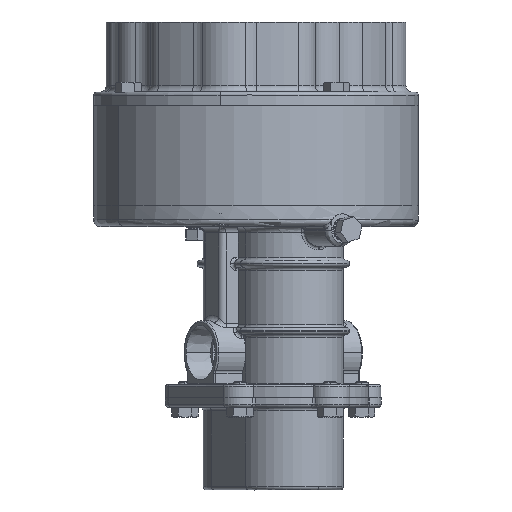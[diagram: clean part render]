
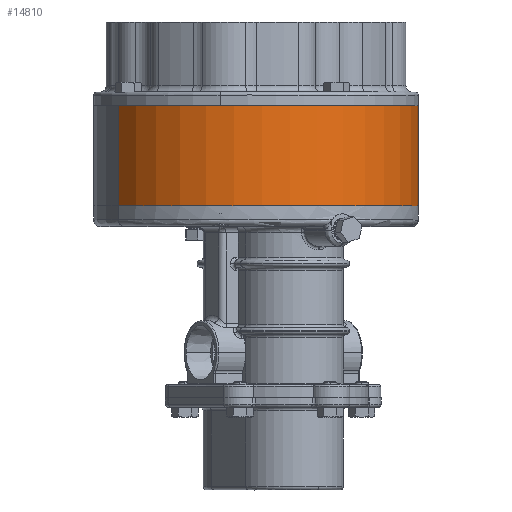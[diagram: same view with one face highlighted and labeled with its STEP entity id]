
A CAD part, top view. The second image highlights one B-rep face of the part: STEP entity #14810.
In plain terms, the highlighted cylindrical face has radius 79.756 mm (diameter 159.512 mm), a partial arc.
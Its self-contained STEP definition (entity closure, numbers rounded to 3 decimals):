
#998 = EDGE_CURVE ( 'NONE', #54192, #35026, #36113, .T. ) ;
#1045 = CARTESIAN_POINT ( 'NONE',  ( -125.4, 70.687, -32.629 ) ) ;
#2567 = CARTESIAN_POINT ( 'NONE',  ( 9.527, 70.687, -117.71 ) ) ;
#3910 = ORIENTED_EDGE ( 'NONE', *, *, #27664, .F. ) ;
#5446 = DIRECTION ( 'NONE',  ( 0., -1., 0. ) ) ;
#5675 = CIRCLE ( 'NONE', #14821, 79.756 ) ;
#10292 = CARTESIAN_POINT ( 'NONE',  ( -57.936, 70.687, -75.17 ) ) ;
#14810 = ADVANCED_FACE ( 'NONE', ( #16182 ), #19344, .T. ) ;
#14821 = AXIS2_PLACEMENT_3D ( 'NONE', #32835, #41758, #37448 ) ;
#16182 = FACE_OUTER_BOUND ( 'NONE', #51747, .T. ) ;
#19121 = VERTEX_POINT ( 'NONE', #28141 ) ;
#19344 = CYLINDRICAL_SURFACE ( 'NONE', #24124, 79.756 ) ;
#20697 = VECTOR ( 'NONE', #40151, 1000. ) ;
#23950 = DIRECTION ( 'NONE',  ( -0.846, 0., 0.533 ) ) ;
#24124 = AXIS2_PLACEMENT_3D ( 'NONE', #32591, #41793, #23950 ) ;
#25861 = ORIENTED_EDGE ( 'NONE', *, *, #37507, .T. ) ;
#27664 = EDGE_CURVE ( 'NONE', #54192, #50817, #53157, .T. ) ;
#27770 = LINE ( 'NONE', #1045, #20697 ) ;
#27862 = AXIS2_PLACEMENT_3D ( 'NONE', #10292, #28994, #41076 ) ;
#28141 = CARTESIAN_POINT ( 'NONE',  ( -125.4, 21.487, -32.629 ) ) ;
#28994 = DIRECTION ( 'NONE',  ( 0., -1., 0. ) ) ;
#31914 = CARTESIAN_POINT ( 'NONE',  ( 9.527, 70.687, -117.71 ) ) ;
#32591 = CARTESIAN_POINT ( 'NONE',  ( -57.936, 70.687, -75.17 ) ) ;
#32835 = CARTESIAN_POINT ( 'NONE',  ( -57.936, 21.487, -75.17 ) ) ;
#33113 = ORIENTED_EDGE ( 'NONE', *, *, #42115, .F. ) ;
#34148 = ORIENTED_EDGE ( 'NONE', *, *, #998, .T. ) ;
#35026 = VERTEX_POINT ( 'NONE', #53907 ) ;
#36113 = CIRCLE ( 'NONE', #27862, 79.756 ) ;
#37448 = DIRECTION ( 'NONE',  ( -0.846, 0., 0.533 ) ) ;
#37507 = EDGE_CURVE ( 'NONE', #35026, #19121, #27770, .T. ) ;
#40151 = DIRECTION ( 'NONE',  ( 0., -1., 0. ) ) ;
#41076 = DIRECTION ( 'NONE',  ( -0.846, 0., 0.533 ) ) ;
#41758 = DIRECTION ( 'NONE',  ( 0., -1., 0. ) ) ;
#41793 = DIRECTION ( 'NONE',  ( 0., -1., 0. ) ) ;
#42027 = CARTESIAN_POINT ( 'NONE',  ( 9.527, 21.487, -117.71 ) ) ;
#42115 = EDGE_CURVE ( 'NONE', #50817, #19121, #5675, .T. ) ;
#47676 = VECTOR ( 'NONE', #5446, 1000. ) ;
#50817 = VERTEX_POINT ( 'NONE', #42027 ) ;
#51747 = EDGE_LOOP ( 'NONE', ( #3910, #34148, #25861, #33113 ) ) ;
#53157 = LINE ( 'NONE', #31914, #47676 ) ;
#53907 = CARTESIAN_POINT ( 'NONE',  ( -125.4, 70.687, -32.629 ) ) ;
#54192 = VERTEX_POINT ( 'NONE', #2567 ) ;
